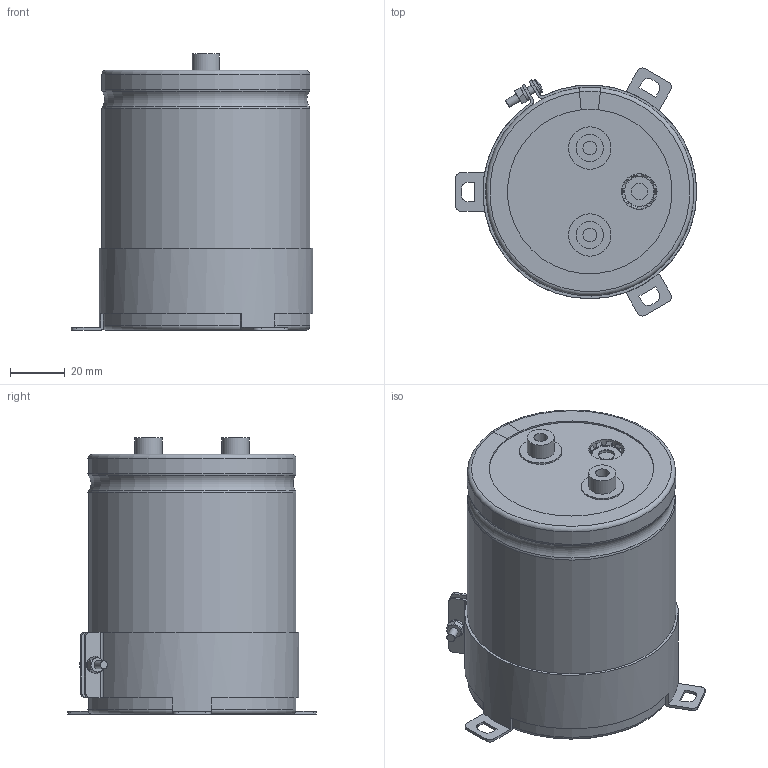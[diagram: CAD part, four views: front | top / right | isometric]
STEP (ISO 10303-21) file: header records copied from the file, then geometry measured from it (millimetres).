
FILE_DESCRIPTION(/* description */ (''),/* implementation_level */ '2;1');
FILE_NAME(/* name */ '76.2x95_Screw.stp',/* time_stamp */ '2017-09-17T13:20:08+09:00',/* author */ (''),/* organization */ (''),/* preprocessor_version */ 'ST-DEVELOPER v16',/* originating_system */ 'SIEMENS PLM Software NX 11.0',/* authorisation */ '');
FILE_SCHEMA (('AUTOMOTIVE_DESIGN { 1 0 10303 214 3 1 1 1 }'));
Length unit declared in the file: millimetre
Products named in the file (1): 76.2x95_Screw
Bounding box: 88.3 x 90.75 x 101 mm (x, y, z)
Volume: 435621.5 mm3; surface area: 98438 mm2
Topology: 9 solids, 9 shells, 259 faces, 642 edges, 413 vertices
Faces by surface type: plane 112, cylinder 66, torus 49, cone 31, sphere 1
Full cylindrical faces by diameter (mm): 3 x5, 5 x2, 5.5 x2, 6 x4, 8 x1, 10 x2, 13 x2, 15.5 x2, 75 x2
Entity records: 8534 total; most frequent: CARTESIAN_POINT 2182, DIRECTION 1296, ORIENTED_EDGE 1214, EDGE_CURVE 607, AXIS2_PLACEMENT_3D 541, VERTEX_POINT 408, EDGE_LOOP 317, CIRCLE 281
